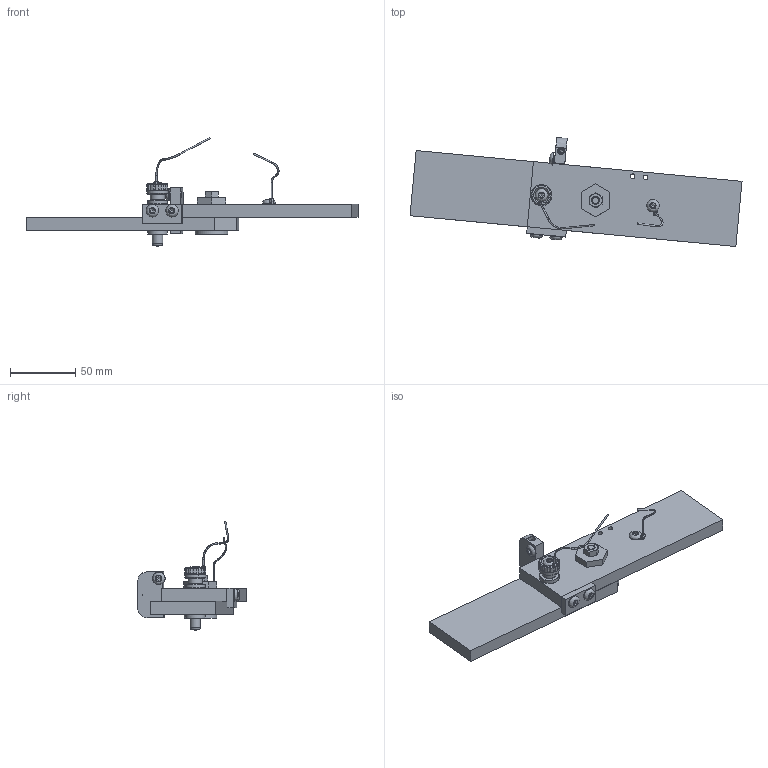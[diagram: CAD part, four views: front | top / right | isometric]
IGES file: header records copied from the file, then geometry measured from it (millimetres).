
Global section: file name: 01.00-P; native system: Autodesk Inventor 2014; preprocessor: unknown; author: AP.to; date: 20150326.103125; units: millimetre
Bounding box: 253.59 x 83.23 x 83.3 mm (x, y, z)
Volume: 169536.2 mm3; surface area: 59504.5 mm2
Topology: 26 solids, 26 shells, 370 faces, 944 edges, 639 vertices
Faces by surface type: bspline 370
